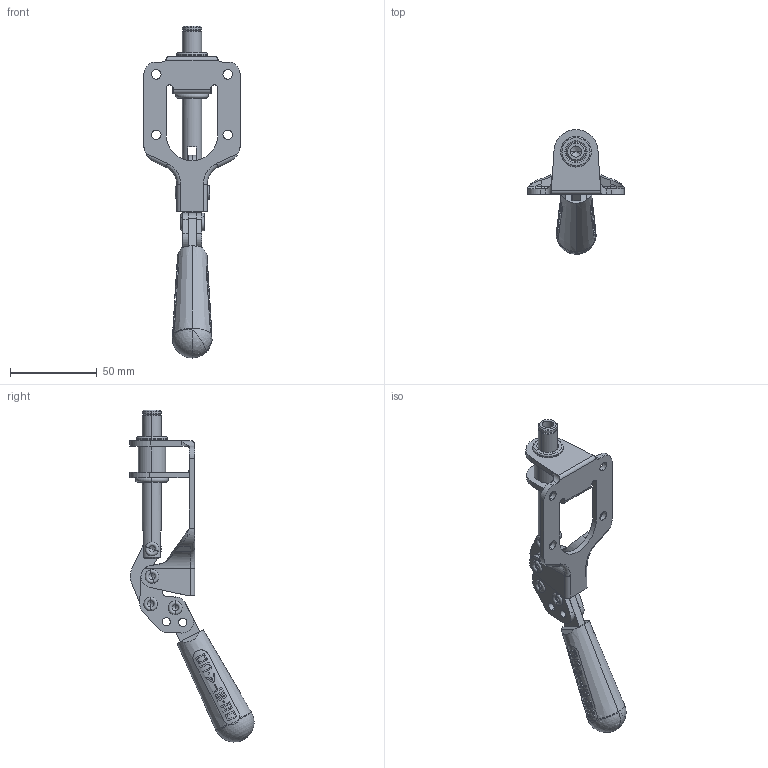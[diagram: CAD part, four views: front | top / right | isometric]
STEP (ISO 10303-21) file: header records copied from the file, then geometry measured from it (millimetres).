
FILE_DESCRIPTION((''),'2;1');
FILE_NAME('001_DESTACO_605_ASM','2023-12-04T',('SYSTEM'),(''),'PRO/ENGINEER BY PARAMETRIC TECHNOLOGY CORPORATION, 2016360','PRO/ENGINEER BY PARAMETRIC TECHNOLOGY CORPORATION, 2016360','');
FILE_SCHEMA(('AUTOMOTIVE_DESIGN { 1 0 10303 214 1 1 1 1 }'));
Products named in the file (18): 605_BODY_0; 605_BODY_12; 605_BODY_1; 605_BASE_ASM; 605_BODY_6; 605_BODY_11; 605_PLUNGER_ASM; 605_BODY_10; 605_BODY_9; 605_BODY_8; 605_BODY_7; 605_BODY_3; 605_BODY_2; 605_LEVER_ASM; 605_BODY_4; 605_BODY_5; 605_LINK_ASM; 001_DESTACO_605_ASM
Assembly tree (17 placements, depth 3):
  001_DESTACO_605_ASM
    605_BASE_ASM
      605_BODY_0
      605_BODY_12
      605_BODY_1
    605_PLUNGER_ASM
      605_BODY_6
      605_BODY_11
    605_LEVER_ASM
      605_BODY_10
      605_BODY_9
      605_BODY_8
      605_BODY_7
      605_BODY_3
      605_BODY_2
    605_LINK_ASM
      605_BODY_4
      605_BODY_5
Bounding box: 55.63 x 71.66 x 191.67 mm (x, y, z)
Volume: 59648.4 mm3; surface area: 38435.6 mm2
Topology: 13 solids, 13 shells, 611 faces, 1596 edges, 1035 vertices
Faces by surface type: plane 273, cylinder 207, cone 53, torus 32, extrusion 28, bspline 10, sphere 8
Entity records: 29351 total; most frequent: CARTESIAN_POINT 8702, ORIENTED_EDGE 3156, DIRECTION 2977, PRESENTATION_STYLE_ASSIGNMENT 1591, STYLED_ITEM 1591, CURVE_STYLE 1578, EDGE_CURVE 1578, AXIS2_PLACEMENT_3D 1162
